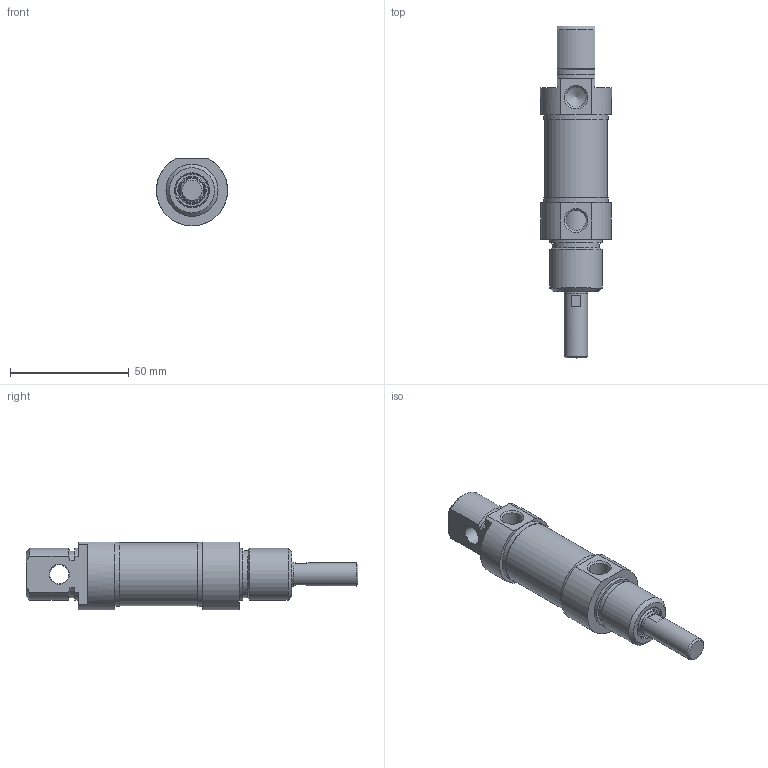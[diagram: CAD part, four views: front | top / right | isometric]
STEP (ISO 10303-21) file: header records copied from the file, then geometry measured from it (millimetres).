
FILE_DESCRIPTION((''),'2;1');
FILE_NAME('T:\Archivio Inventor\- 00 NUOVI STP PER SITO CON STELO CHE SI MUOVE\SERIE O\ODM\ODM025.---.GS.M\ODM025.000.GS.M.stp','2014-02-26T09:50:20',('carlo.corazza'),(''),'Autodesk Inventor 2012','Autodesk Inventor 2012','');
FILE_SCHEMA(('AUTOMOTIVE_DESIGN { 1 0 10303 214 1 1 1 1 }'));
Length unit declared in the file: millimetre
Products named in the file (5): ODM025..GS.M; CORPO-000; STELO-000; TA; TP
Assembly tree (4 placements, depth 2):
  ODM025..GS.M
    CORPO-000
    STELO-000
    TA
    TP
Bounding box: 30 x 140 x 28.45 mm (x, y, z)
Volume: 43108.8 mm3; surface area: 19161.8 mm2
Topology: 4 solids, 4 shells, 98 faces, 202 edges, 127 vertices
Faces by surface type: plane 38, cylinder 28, cone 24, torus 8
Full cylindrical faces by diameter (mm): 8 x2, 8.566 x2, 9.9 x1, 10 x1, 10.5 x1, 11.1 x1, 14 x1, 14.1 x1, 16.1 x1, 16.2 x1, 19.7 x1, 22 x2, 25 x1, 26.5 x1, 27 x2
Entity records: 2537 total; most frequent: DIRECTION 442, CARTESIAN_POINT 420, ORIENTED_EDGE 292, AXIS2_PLACEMENT_3D 198, EDGE_LOOP 164, EDGE_CURVE 146, VERTEX_POINT 118, FACE_OUTER_BOUND 98
